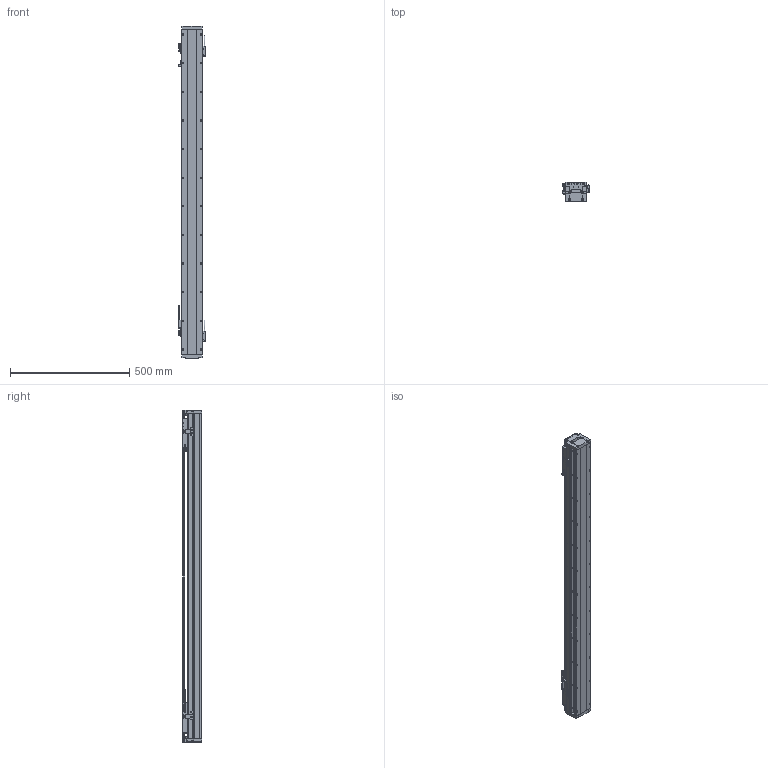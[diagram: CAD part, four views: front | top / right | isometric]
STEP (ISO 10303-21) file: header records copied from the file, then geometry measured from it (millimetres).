
FILE_DESCRIPTION (( 'STEP AP214' ), '1' );
FILE_NAME ('STC086-A-P-1194-2F105-MB-010-0.3.STEP', '2023-05-15T06:03:58', ( '' ), ( '' ), 'SwSTEP 2.0', 'SolidWorks 2018', '' );
FILE_SCHEMA (( 'AUTOMOTIVE_DESIGN' ));
Length unit declared in the file: millimetre
Products named in the file (62): STK0112-01（感应片）(默认); SKT0112-02（线缆固定件）; 086-Lxxxx菁釱; 賑輸SRS12M; SE040隅赽; LMD-2-R001-V5-L0.3-C0-F00（磁栅编码器）; STK0095-001（多动子感应片）; 086-SE1-040-S賑怢; 蝶菜17x14x10; SF-202NA-W（光电开关）; STK013-01（磁栅压块）; STC086-A-P-1194-2F105-MB-010-0.3; STK0066-001（086端盖）; 086-Lxxxx裔啣; STK080-F105賑怢蚾饜极-1; SL-205NA-W（光电开关）; STK0086-001（086读头固定块）; 絳寢SRS12M+xxxxL-G10; HC-U-02-Lxxx棠掑喜; STK080-F105賑怢蚾饜极
Assembly tree (44 placements, depth 3):
  SKT0112-02（线缆固定件）
  STK0112-01（感应片）(默认)
  賑輸SRS12M
  SE040隅赽
  賑輸SRS12M
Bounding box: 115.7 x 81 x 1392 mm (x, y, z)
Volume: 4504916.6 mm3; surface area: 1420673.2 mm2
Topology: 42 solids, 42 shells, 3393 faces, 9352 edges, 5954 vertices
Faces by surface type: plane 1706, cylinder 1344, cone 289, torus 24, bspline 22, sphere 8
Entity records: 60002 total; most frequent: CARTESIAN_POINT 12933, ORIENTED_EDGE 9714, DIRECTION 9265, EDGE_CURVE 4857, VERTEX_POINT 3181, AXIS2_PLACEMENT_3D 3159, VECTOR 2947, LINE 2947
